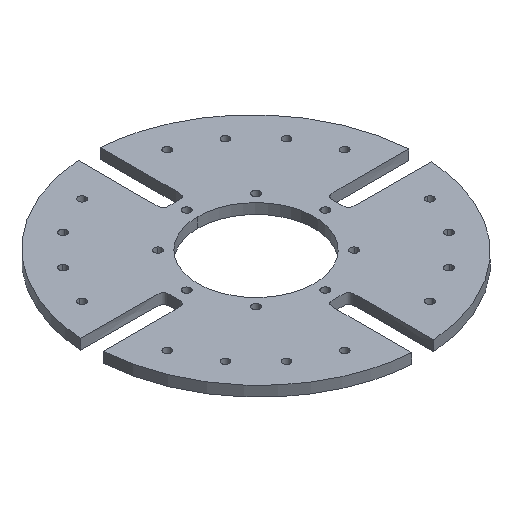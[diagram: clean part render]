
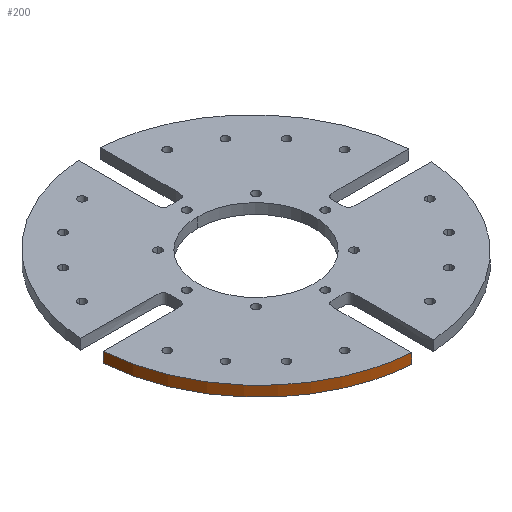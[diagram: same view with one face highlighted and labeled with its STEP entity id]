
A CAD part, isometric view. The second image highlights one B-rep face of the part: STEP entity #200.
In plain terms, the highlighted free-form (B-spline) face has degree [2, 1] with [3, 2] control points.
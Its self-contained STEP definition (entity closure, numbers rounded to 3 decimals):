
#200=ADVANCED_FACE('',(#260),#1270,.T.);
#260=FACE_OUTER_BOUND('',#320,.T.);
#320=EDGE_LOOP('',(#433,#434,#435,#436));
#433=ORIENTED_EDGE('',*,*,#781,.T.);
#434=ORIENTED_EDGE('',*,*,#782,.T.);
#435=ORIENTED_EDGE('',*,*,#783,.F.);
#436=ORIENTED_EDGE('',*,*,#778,.F.);
#778=EDGE_CURVE('',#1152,#1153,#952,.T.);
#781=EDGE_CURVE('',#1152,#1155,#955,.T.);
#782=EDGE_CURVE('',#1155,#1156,#956,.T.);
#783=EDGE_CURVE('',#1153,#1156,#957,.T.);
#952=(
BOUNDED_CURVE()
B_SPLINE_CURVE(1,(#2083,#2084),.UNSPECIFIED.,.F.,.F.)
B_SPLINE_CURVE_WITH_KNOTS((2,2),(0.,4.),.UNSPECIFIED.)
CURVE()
GEOMETRIC_REPRESENTATION_ITEM()
RATIONAL_B_SPLINE_CURVE((1.,1.))
REPRESENTATION_ITEM('')
);
#955=(
BOUNDED_CURVE()
B_SPLINE_CURVE(2,(#2096,#2097,#2098),.UNSPECIFIED.,.F.,.F.)
B_SPLINE_CURVE_WITH_KNOTS((3,3),(241.099,347.877),
 .UNSPECIFIED.)
CURVE()
GEOMETRIC_REPRESENTATION_ITEM()
RATIONAL_B_SPLINE_CURVE((1.,0.753,1.))
REPRESENTATION_ITEM('')
);
#956=(
BOUNDED_CURVE()
B_SPLINE_CURVE(1,(#2099,#2100),.UNSPECIFIED.,.F.,.F.)
B_SPLINE_CURVE_WITH_KNOTS((2,2),(0.,4.),.UNSPECIFIED.)
CURVE()
GEOMETRIC_REPRESENTATION_ITEM()
RATIONAL_B_SPLINE_CURVE((1.,1.))
REPRESENTATION_ITEM('')
);
#957=(
BOUNDED_CURVE()
B_SPLINE_CURVE(2,(#2101,#2102,#2103),.UNSPECIFIED.,.F.,.F.)
B_SPLINE_CURVE_WITH_KNOTS((3,3),(241.099,347.877),
 .UNSPECIFIED.)
CURVE()
GEOMETRIC_REPRESENTATION_ITEM()
RATIONAL_B_SPLINE_CURVE((1.,0.753,1.))
REPRESENTATION_ITEM('')
);
#1152=VERTEX_POINT('',#1959);
#1153=VERTEX_POINT('',#1960);
#1155=VERTEX_POINT('',#1962);
#1156=VERTEX_POINT('',#1963);
#1270=(
BOUNDED_SURFACE()
B_SPLINE_SURFACE(2,1,((#1378,#1379),(#1380,#1381),(#1382,#1383)),
 .UNSPECIFIED.,.F.,.F.,.F.)
B_SPLINE_SURFACE_WITH_KNOTS((3,3),(2,2),(241.099,347.877),
(0.,4.),.UNSPECIFIED.)
GEOMETRIC_REPRESENTATION_ITEM()
RATIONAL_B_SPLINE_SURFACE(((2.554,2.554),(1.923,
1.923),(2.554,2.554)))
REPRESENTATION_ITEM('')
SURFACE()
);
#1378=CARTESIAN_POINT('',(-63.905,-4.359,0.));
#1379=CARTESIAN_POINT('',(-63.905,-4.359,4.));
#1380=CARTESIAN_POINT('',(-60.15,-61.066,0.));
#1381=CARTESIAN_POINT('',(-60.15,-61.066,4.));
#1382=CARTESIAN_POINT('',(-4.283,-64.867,0.));
#1383=CARTESIAN_POINT('',(-4.283,-64.867,4.));
#1959=CARTESIAN_POINT('',(-63.905,-4.359,0.));
#1960=CARTESIAN_POINT('',(-63.905,-4.359,4.));
#1962=CARTESIAN_POINT('',(-4.283,-64.867,0.));
#1963=CARTESIAN_POINT('',(-4.283,-64.867,4.));
#2083=CARTESIAN_POINT('',(-63.905,-4.359,0.));
#2084=CARTESIAN_POINT('',(-63.905,-4.359,4.));
#2096=CARTESIAN_POINT('',(-63.905,-4.359,0.));
#2097=CARTESIAN_POINT('',(-60.15,-61.066,0.));
#2098=CARTESIAN_POINT('',(-4.283,-64.867,0.));
#2099=CARTESIAN_POINT('',(-4.283,-64.867,0.));
#2100=CARTESIAN_POINT('',(-4.283,-64.867,4.));
#2101=CARTESIAN_POINT('',(-63.905,-4.359,4.));
#2102=CARTESIAN_POINT('',(-60.15,-61.066,4.));
#2103=CARTESIAN_POINT('',(-4.283,-64.867,4.));
